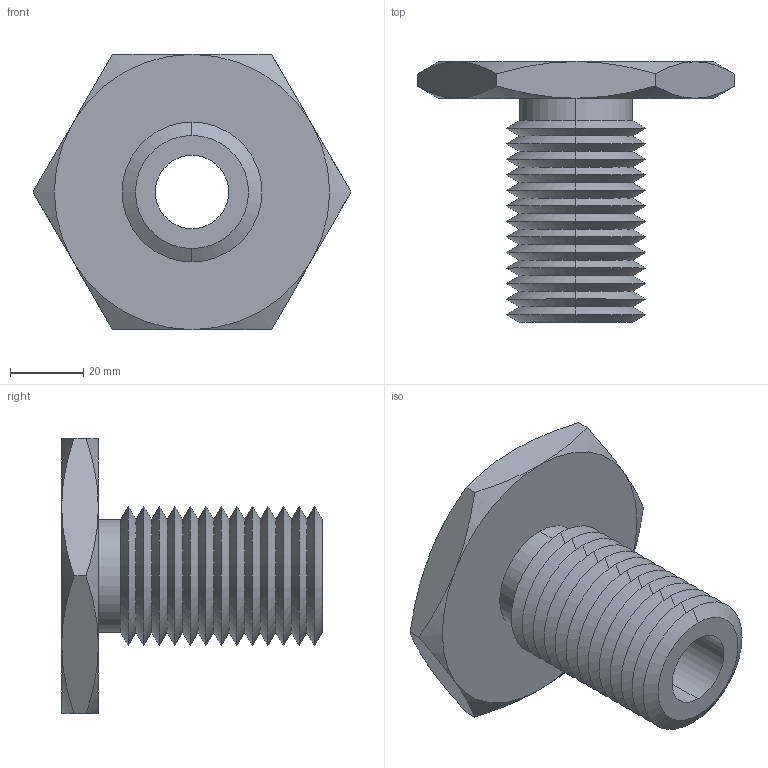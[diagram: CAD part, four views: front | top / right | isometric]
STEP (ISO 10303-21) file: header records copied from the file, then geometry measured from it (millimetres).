
FILE_DESCRIPTION (( 'STEP AP203' ), '1' );
FILE_NAME ('63302.W5150_M20x2,5.step', '2013-12-08T11:45:13', ( 'User' ), ( '' ), 'SwSTEP 2.0', 'SolidWorks 2009', '' );
FILE_SCHEMA (( 'CONFIG_CONTROL_DESIGN' ));
Length unit declared in the file: millimetre
Products named in the file (1): 63302.W5150_M20x2,5
Bounding box: 86.6 x 71 x 75 mm (x, y, z)
Volume: 81160.1 mm3; surface area: 28112.4 mm2
Topology: 1 solids, 1 shells, 79 faces, 162 edges, 86 vertices
Faces by surface type: cone 66, plane 9, cylinder 4
Entity records: 2239 total; most frequent: CARTESIAN_POINT 512, DIRECTION 372, ORIENTED_EDGE 324, EDGE_CURVE 162, AXIS2_PLACEMENT_3D 154, VERTEX_POINT 86, EDGE_LOOP 82, ADVANCED_FACE 79
